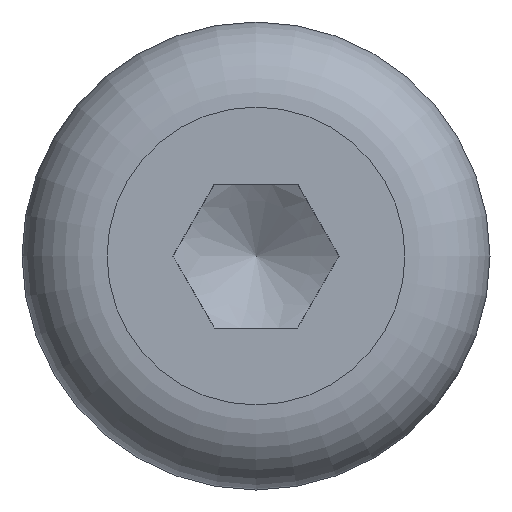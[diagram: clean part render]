
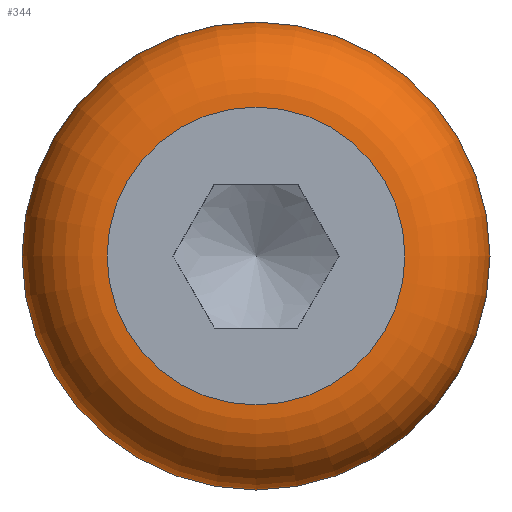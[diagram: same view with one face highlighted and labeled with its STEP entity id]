
A CAD part, left-side view. The second image highlights one B-rep face of the part: STEP entity #344.
In plain terms, the highlighted toroidal (fillet/blend) face has major radius 4.138 mm and minor radius 2.362 mm.
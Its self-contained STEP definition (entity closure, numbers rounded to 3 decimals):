
#100=FACE_OUTER_BOUND('',#124,.T.);
#124=EDGE_LOOP('',(#281,#282,#283,#284,#285));
#151=CIRCLE('',#406,6.5);
#152=CIRCLE('',#407,6.5);
#153=CIRCLE('',#408,2.362);
#154=CIRCLE('',#409,4.138);
#170=VERTEX_POINT('',#580);
#171=VERTEX_POINT('',#581);
#172=VERTEX_POINT('',#584);
#210=EDGE_CURVE('',#170,#171,#151,.T.);
#211=EDGE_CURVE('',#171,#170,#152,.T.);
#212=EDGE_CURVE('',#170,#172,#153,.T.);
#213=EDGE_CURVE('',#172,#172,#154,.T.);
#281=ORIENTED_EDGE('',*,*,#210,.T.);
#282=ORIENTED_EDGE('',*,*,#211,.T.);
#283=ORIENTED_EDGE('',*,*,#212,.T.);
#284=ORIENTED_EDGE('',*,*,#213,.T.);
#285=ORIENTED_EDGE('',*,*,#212,.F.);
#331=TOROIDAL_SURFACE('',#405,4.138,2.362);
#344=ADVANCED_FACE('',(#100),#331,.T.);
#405=AXIS2_PLACEMENT_3D('',#579,#485,#486);
#406=AXIS2_PLACEMENT_3D('',#582,#487,#488);
#407=AXIS2_PLACEMENT_3D('',#583,#489,#490);
#408=AXIS2_PLACEMENT_3D('',#585,#491,#492);
#409=AXIS2_PLACEMENT_3D('',#586,#493,#494);
#485=DIRECTION('center_axis',(1.,0.,0.));
#486=DIRECTION('ref_axis',(0.,0.,-1.));
#487=DIRECTION('center_axis',(-1.,0.,0.));
#488=DIRECTION('ref_axis',(0.,-1.,0.));
#489=DIRECTION('center_axis',(-1.,0.,0.));
#490=DIRECTION('ref_axis',(0.,-1.,0.));
#491=DIRECTION('center_axis',(0.,-1.,0.));
#492=DIRECTION('ref_axis',(0.,0.,1.));
#493=DIRECTION('center_axis',(1.,0.,0.));
#494=DIRECTION('ref_axis',(0.,-1.,0.));
#579=CARTESIAN_POINT('Origin',(-3.138,0.,0.));
#580=CARTESIAN_POINT('',(-3.138,0.,6.5));
#581=CARTESIAN_POINT('',(-3.138,-6.5,0.));
#582=CARTESIAN_POINT('Origin',(-3.138,0.,0.));
#583=CARTESIAN_POINT('Origin',(-3.138,0.,0.));
#584=CARTESIAN_POINT('',(-5.5,0.,4.138));
#585=CARTESIAN_POINT('Origin',(-3.138,0.,4.138));
#586=CARTESIAN_POINT('Origin',(-5.5,0.,0.));
